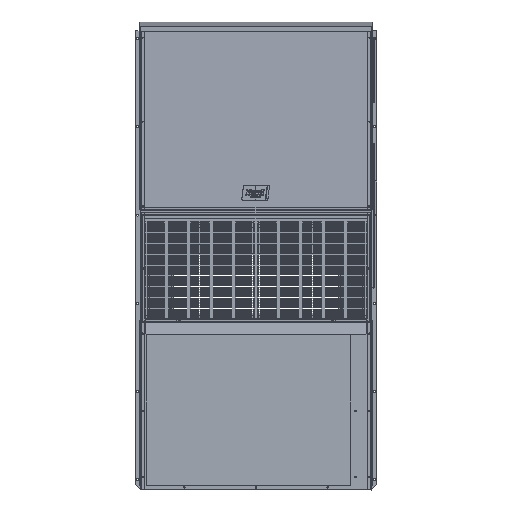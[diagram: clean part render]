
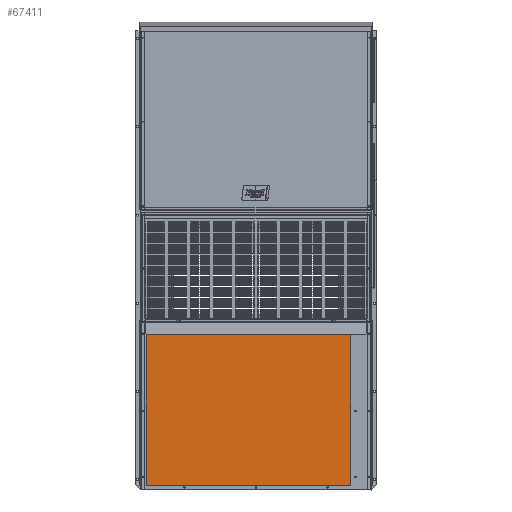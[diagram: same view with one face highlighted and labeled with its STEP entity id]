
A CAD part, top view. The second image highlights one B-rep face of the part: STEP entity #67411.
In plain terms, the highlighted planar face has unit normal (0, 0, 1).
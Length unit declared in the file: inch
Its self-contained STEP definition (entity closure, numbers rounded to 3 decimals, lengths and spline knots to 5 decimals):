
#2245 = VERTEX_POINT ( 'NONE', #115729 ) ;
#9147 = CARTESIAN_POINT ( 'NONE',  ( -19.8784, 0.80054, 0.14137 ) ) ;
#20952 = DIRECTION ( 'NONE',  ( 1., 0., 0. ) ) ;
#26181 = DIRECTION ( 'NONE',  ( 0., -1., 0. ) ) ;
#28900 = ORIENTED_EDGE ( 'NONE', *, *, #190322, .F. ) ;
#29871 = LINE ( 'NONE', #116285, #150806 ) ;
#37378 = ORIENTED_EDGE ( 'NONE', *, *, #52189, .F. ) ;
#43969 = VECTOR ( 'NONE', #192523, 39.37008 ) ;
#52189 = EDGE_CURVE ( 'NONE', #2245, #123675, #203471, .T. ) ;
#52797 = EDGE_CURVE ( 'NONE', #177157, #2245, #68378, .T. ) ;
#57499 = DIRECTION ( 'NONE',  ( -1., 0., 0. ) ) ;
#67411 = ADVANCED_FACE ( 'NONE', ( #161681 ), #129046, .F. ) ;
#68378 = LINE ( 'NONE', #120870, #110375 ) ;
#68793 = CARTESIAN_POINT ( 'NONE',  ( -19.8784, 30.85454, 0.14137 ) ) ;
#69405 = AXIS2_PLACEMENT_3D ( 'NONE', #144823, #82070, #191747 ) ;
#78517 = VECTOR ( 'NONE', #57499, 39.37008 ) ;
#82070 = DIRECTION ( 'NONE',  ( 0., 0., -1. ) ) ;
#82885 = CARTESIAN_POINT ( 'NONE',  ( -19.8784, 30.85454, 0.14137 ) ) ;
#86046 = LINE ( 'NONE', #82885, #43969 ) ;
#88167 = VERTEX_POINT ( 'NONE', #68793 ) ;
#92792 = CARTESIAN_POINT ( 'NONE',  ( -19.8784, 0.80054, 0.14137 ) ) ;
#94594 = EDGE_CURVE ( 'NONE', #88167, #177157, #29871, .T. ) ;
#110375 = VECTOR ( 'NONE', #26181, 39.37008 ) ;
#111554 = ORIENTED_EDGE ( 'NONE', *, *, #94594, .F. ) ;
#115729 = CARTESIAN_POINT ( 'NONE',  ( 17.1946, 0.80054, 0.14137 ) ) ;
#116285 = CARTESIAN_POINT ( 'NONE',  ( -19.8784, 30.85454, 0.14137 ) ) ;
#117659 = CARTESIAN_POINT ( 'NONE',  ( 17.1946, 30.85454, 0.14137 ) ) ;
#120870 = CARTESIAN_POINT ( 'NONE',  ( 17.1946, 30.85454, 0.14137 ) ) ;
#123675 = VERTEX_POINT ( 'NONE', #92792 ) ;
#129046 = PLANE ( 'NONE',  #69405 ) ;
#141441 = EDGE_LOOP ( 'NONE', ( #37378, #146931, #111554, #28900 ) ) ;
#144823 = CARTESIAN_POINT ( 'NONE',  ( 17.1946, 30.85454, 0.14137 ) ) ;
#146931 = ORIENTED_EDGE ( 'NONE', *, *, #52797, .F. ) ;
#150806 = VECTOR ( 'NONE', #20952, 39.37008 ) ;
#161681 = FACE_OUTER_BOUND ( 'NONE', #141441, .T. ) ;
#177157 = VERTEX_POINT ( 'NONE', #117659 ) ;
#190322 = EDGE_CURVE ( 'NONE', #123675, #88167, #86046, .T. ) ;
#191747 = DIRECTION ( 'NONE',  ( -1., 0., 0. ) ) ;
#192523 = DIRECTION ( 'NONE',  ( 0., 1., 0. ) ) ;
#203471 = LINE ( 'NONE', #9147, #78517 ) ;
